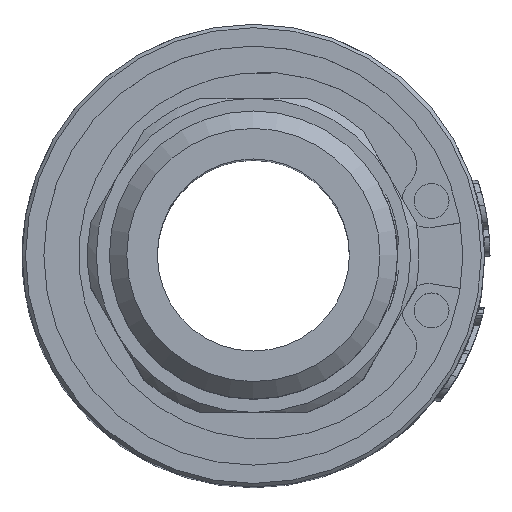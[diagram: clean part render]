
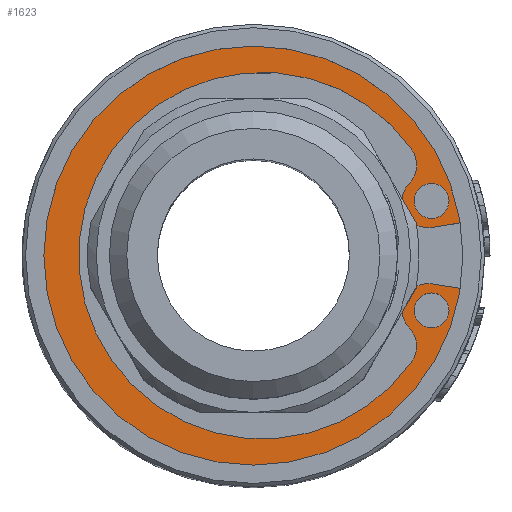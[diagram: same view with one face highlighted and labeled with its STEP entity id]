
A CAD part, top view. The second image highlights one B-rep face of the part: STEP entity #1623.
In plain terms, the highlighted planar face has unit normal (0, 0, 1).
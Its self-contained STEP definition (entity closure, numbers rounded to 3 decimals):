
#200=FACE_BOUND('',#3812,.T.);
#201=FACE_BOUND('',#3813,.T.);
#202=FACE_BOUND('',#3814,.T.);
#296=CIRCLE('',#17588,12.6);
#321=CIRCLE('',#17631,1.5);
#322=CIRCLE('',#17633,1.5);
#323=CIRCLE('',#17635,0.75);
#324=CIRCLE('',#17638,0.75);
#325=CIRCLE('',#17640,1.5);
#326=CIRCLE('',#17642,1.5);
#327=CIRCLE('',#17645,10.5);
#328=CIRCLE('',#17647,1.);
#329=CIRCLE('',#17648,1.);
#1623=ADVANCED_FACE('',(#200,#201,#202),#2149,.T.);
#2149=PLANE('',#17649);
#3812=EDGE_LOOP('',(#8370,#8371,#8372,#8373,#8374,#8375,#8376,#8377,#8378,
#8379));
#3813=EDGE_LOOP('',(#8380));
#3814=EDGE_LOOP('',(#8381));
#4323=LINE('',#33563,#4972);
#4328=LINE('',#33579,#4977);
#4972=VECTOR('',#19018,1.);
#4977=VECTOR('',#19037,1.);
#8370=ORIENTED_EDGE('',*,*,#14008,.T.);
#8371=ORIENTED_EDGE('',*,*,#13963,.F.);
#8372=ORIENTED_EDGE('',*,*,#14012,.F.);
#8373=ORIENTED_EDGE('',*,*,#14018,.T.);
#8374=ORIENTED_EDGE('',*,*,#14016,.F.);
#8375=ORIENTED_EDGE('',*,*,#14014,.F.);
#8376=ORIENTED_EDGE('',*,*,#14019,.F.);
#8377=ORIENTED_EDGE('',*,*,#14004,.T.);
#8378=ORIENTED_EDGE('',*,*,#14006,.T.);
#8379=ORIENTED_EDGE('',*,*,#14010,.F.);
#8380=ORIENTED_EDGE('',*,*,#14020,.F.);
#8381=ORIENTED_EDGE('',*,*,#14021,.T.);
#11598=VERTEX_POINT('',#33445);
#11600=VERTEX_POINT('',#33448);
#11632=VERTEX_POINT('',#33550);
#11633=VERTEX_POINT('',#33552);
#11634=VERTEX_POINT('',#33556);
#11635=VERTEX_POINT('',#33560);
#11636=VERTEX_POINT('',#33566);
#11637=VERTEX_POINT('',#33570);
#11638=VERTEX_POINT('',#33572);
#11639=VERTEX_POINT('',#33576);
#11640=VERTEX_POINT('',#33584);
#11641=VERTEX_POINT('',#33586);
#13963=EDGE_CURVE('',#11598,#11600,#296,.T.);
#14004=EDGE_CURVE('',#11633,#11632,#321,.T.);
#14006=EDGE_CURVE('',#11632,#11634,#322,.T.);
#14008=EDGE_CURVE('',#11635,#11600,#323,.T.);
#14010=EDGE_CURVE('',#11635,#11634,#4323,.T.);
#14012=EDGE_CURVE('',#11636,#11598,#324,.T.);
#14014=EDGE_CURVE('',#11637,#11638,#325,.T.);
#14016=EDGE_CURVE('',#11638,#11639,#326,.T.);
#14018=EDGE_CURVE('',#11636,#11639,#4328,.T.);
#14019=EDGE_CURVE('',#11633,#11637,#327,.T.);
#14020=EDGE_CURVE('',#11640,#11640,#328,.T.);
#14021=EDGE_CURVE('',#11641,#11641,#329,.T.);
#17588=AXIS2_PLACEMENT_3D('',#33447,#18905,#18906);
#17631=AXIS2_PLACEMENT_3D('',#33551,#19003,#19004);
#17633=AXIS2_PLACEMENT_3D('',#33555,#19008,#19009);
#17635=AXIS2_PLACEMENT_3D('',#33559,#19013,#19014);
#17638=AXIS2_PLACEMENT_3D('',#33567,#19022,#19023);
#17640=AXIS2_PLACEMENT_3D('',#33571,#19027,#19028);
#17642=AXIS2_PLACEMENT_3D('',#33575,#19032,#19033);
#17645=AXIS2_PLACEMENT_3D('',#33581,#19040,#19041);
#17647=AXIS2_PLACEMENT_3D('',#33583,#19044,#19045);
#17648=AXIS2_PLACEMENT_3D('',#33585,#19046,#19047);
#17649=AXIS2_PLACEMENT_3D('',#33587,#19048,#19049);
#18905=DIRECTION('',(0.,0.,-1.));
#18906=DIRECTION('',(1.,0.,0.));
#19003=DIRECTION('',(0.,0.,-1.));
#19004=DIRECTION('',(1.,0.,0.));
#19008=DIRECTION('',(0.,0.,1.));
#19009=DIRECTION('',(1.,0.,0.));
#19013=DIRECTION('',(0.,0.,1.));
#19014=DIRECTION('',(1.,0.,0.));
#19018=DIRECTION('',(-0.988,-0.156,0.));
#19022=DIRECTION('',(0.,0.,-1.));
#19023=DIRECTION('',(1.,0.,0.));
#19027=DIRECTION('',(0.,0.,1.));
#19028=DIRECTION('',(1.,0.,0.));
#19032=DIRECTION('',(0.,0.,-1.));
#19033=DIRECTION('',(1.,0.,0.));
#19037=DIRECTION('',(-0.988,0.156,0.));
#19040=DIRECTION('',(0.,0.,1.));
#19041=DIRECTION('',(1.,0.,0.));
#19044=DIRECTION('',(0.,0.,1.));
#19045=DIRECTION('',(1.,0.,0.));
#19046=DIRECTION('',(0.,0.,-1.));
#19047=DIRECTION('',(1.,0.,0.));
#19048=DIRECTION('',(0.,0.,1.));
#19049=DIRECTION('',(1.,0.,0.));
#33445=CARTESIAN_POINT('',(12.295,-2.755,34.2));
#33447=CARTESIAN_POINT('',(0.,0.,34.2));
#33448=CARTESIAN_POINT('',(12.295,2.755,34.2));
#33550=CARTESIAN_POINT('',(8.929,4.147,34.2));
#33551=CARTESIAN_POINT('',(7.852,5.191,34.2));
#33552=CARTESIAN_POINT('',(9.077,6.057,34.2));
#33555=CARTESIAN_POINT('',(10.006,3.104,34.2));
#33556=CARTESIAN_POINT('',(10.241,1.622,34.2));
#33559=CARTESIAN_POINT('',(11.563,2.591,34.2));
#33560=CARTESIAN_POINT('',(11.681,1.85,34.2));
#33563=CARTESIAN_POINT('',(0.,0.,34.2));
#33566=CARTESIAN_POINT('',(11.681,-1.85,34.2));
#33567=CARTESIAN_POINT('',(11.563,-2.591,34.2));
#33570=CARTESIAN_POINT('',(9.077,-6.057,34.2));
#33571=CARTESIAN_POINT('',(7.852,-5.191,34.2));
#33572=CARTESIAN_POINT('',(8.929,-4.147,34.2));
#33575=CARTESIAN_POINT('',(10.006,-3.104,34.2));
#33576=CARTESIAN_POINT('',(10.241,-1.622,34.2));
#33579=CARTESIAN_POINT('',(0.,0.,34.2));
#33581=CARTESIAN_POINT('',(0.5,0.,34.2));
#33583=CARTESIAN_POINT('',(10.204,3.135,34.2));
#33584=CARTESIAN_POINT('',(11.204,3.135,34.2));
#33585=CARTESIAN_POINT('',(10.204,-3.135,34.2));
#33586=CARTESIAN_POINT('',(11.204,-3.135,34.2));
#33587=CARTESIAN_POINT('',(0.,0.,34.2));
